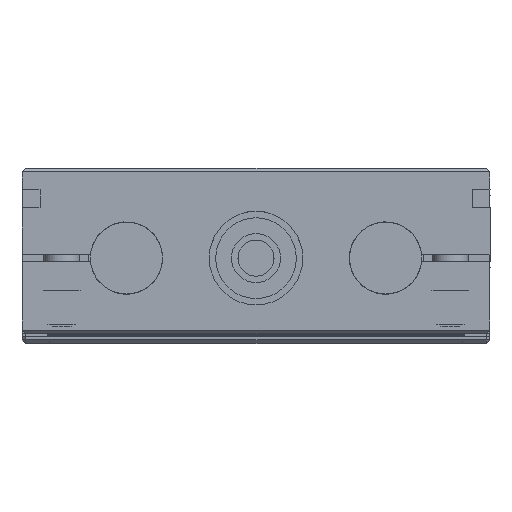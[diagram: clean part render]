
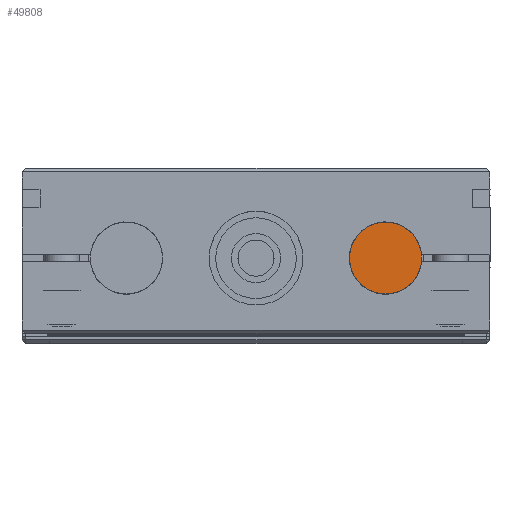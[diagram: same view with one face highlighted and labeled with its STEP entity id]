
A CAD part, top view. The second image highlights one B-rep face of the part: STEP entity #49808.
In plain terms, the highlighted planar face has unit normal (0, 0, 1) as drawn and (1, 0, 0) by its records, which use the part's own axes.
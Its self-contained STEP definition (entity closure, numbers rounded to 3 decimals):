
#2555 = ORIENTED_EDGE ( 'NONE', *, *, #20960, .T. ) ;
#6400 = CARTESIAN_POINT ( 'NONE',  ( 450., 25., 26. ) ) ;
#11010 = VERTEX_POINT ( 'NONE', #6400 ) ;
#13391 = DIRECTION ( 'NONE',  ( 0., 0., -1. ) ) ;
#14793 = CARTESIAN_POINT ( 'NONE',  ( 450., 25., 36. ) ) ;
#20960 = EDGE_CURVE ( 'NONE', #11010, #38879, #54520, .T. ) ;
#23332 = PLANE ( 'NONE',  #48851 ) ;
#25220 = AXIS2_PLACEMENT_3D ( 'NONE', #65424, #39229, #13391 ) ;
#26359 = CIRCLE ( 'NONE', #30721, 10. ) ;
#29331 = EDGE_LOOP ( 'NONE', ( #2555, #41995 ) ) ;
#30721 = AXIS2_PLACEMENT_3D ( 'NONE', #64101, #58315, #42981 ) ;
#36279 = EDGE_CURVE ( 'NONE', #38879, #11010, #26359, .T. ) ;
#38879 = VERTEX_POINT ( 'NONE', #48003 ) ;
#39229 = DIRECTION ( 'NONE',  ( 1., 0., 0. ) ) ;
#41995 = ORIENTED_EDGE ( 'NONE', *, *, #36279, .T. ) ;
#42981 = DIRECTION ( 'NONE',  ( 0., 0., -1. ) ) ;
#48003 = CARTESIAN_POINT ( 'NONE',  ( 450., 25., 46. ) ) ;
#48851 = AXIS2_PLACEMENT_3D ( 'NONE', #14793, #66817, #56958 ) ;
#49170 = FACE_OUTER_BOUND ( 'NONE', #29331, .T. ) ;
#49808 = ADVANCED_FACE ( 'NONE', ( #49170 ), #23332, .T. ) ;
#54520 = CIRCLE ( 'NONE', #25220, 10. ) ;
#56958 = DIRECTION ( 'NONE',  ( 0., 0., -1. ) ) ;
#58315 = DIRECTION ( 'NONE',  ( 1., 0., 0. ) ) ;
#64101 = CARTESIAN_POINT ( 'NONE',  ( 450., 25., 36. ) ) ;
#65424 = CARTESIAN_POINT ( 'NONE',  ( 450., 25., 36. ) ) ;
#66817 = DIRECTION ( 'NONE',  ( 1., 0., 0. ) ) ;
